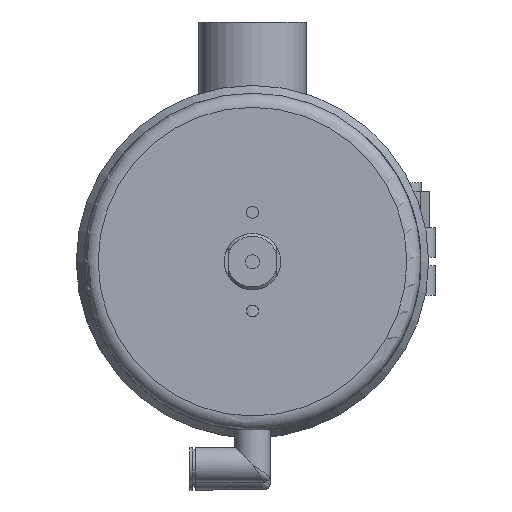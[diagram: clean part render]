
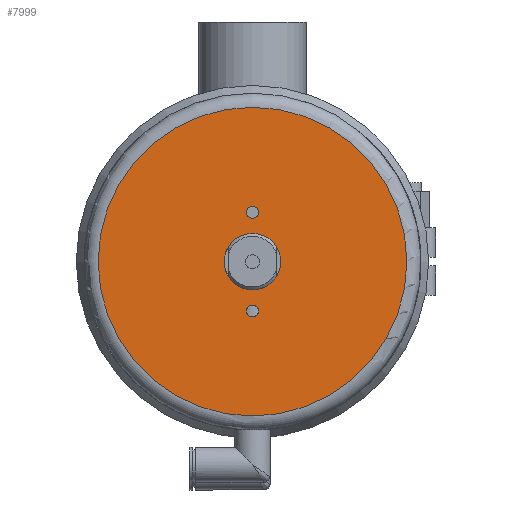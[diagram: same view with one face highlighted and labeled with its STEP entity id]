
A CAD part, front view. The second image highlights one B-rep face of the part: STEP entity #7999.
In plain terms, the highlighted planar face has unit normal (0, -1, 0) as drawn and (0, 1, 0) by its records, which use the part's own axes.
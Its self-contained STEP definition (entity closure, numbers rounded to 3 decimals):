
#518 = DIRECTION ( 'NONE',  ( 0., 1., 0. ) ) ;
#783 = EDGE_LOOP ( 'NONE', ( #12693 ) ) ;
#2027 = AXIS2_PLACEMENT_3D ( 'NONE', #21886, #16858, #3698 ) ;
#2460 = CIRCLE ( 'NONE', #23102, 2.1 ) ;
#3698 = DIRECTION ( 'NONE',  ( 0., 0., -1. ) ) ;
#4054 = FACE_BOUND ( 'NONE', #18522, .T. ) ;
#4702 = AXIS2_PLACEMENT_3D ( 'NONE', #22902, #8426, #9858 ) ;
#5006 = ORIENTED_EDGE ( 'NONE', *, *, #8333, .T. ) ;
#5089 = CIRCLE ( 'NONE', #4702, 10. ) ;
#5433 = VERTEX_POINT ( 'NONE', #21837 ) ;
#7260 = AXIS2_PLACEMENT_3D ( 'NONE', #16535, #518, #7434 ) ;
#7274 = FACE_OUTER_BOUND ( 'NONE', #783, .T. ) ;
#7434 = DIRECTION ( 'NONE',  ( 0., 0., -1. ) ) ;
#7604 = EDGE_LOOP ( 'NONE', ( #5006 ) ) ;
#7804 = CARTESIAN_POINT ( 'NONE',  ( 0., 214., -17.5 ) ) ;
#7999 = ADVANCED_FACE ( 'NONE', ( #4054, #16383, #7274, #14590 ), #16497, .F. ) ;
#8333 = EDGE_CURVE ( 'NONE', #9694, #9694, #5089, .T. ) ;
#8426 = DIRECTION ( 'NONE',  ( 0., -1., 0. ) ) ;
#9694 = VERTEX_POINT ( 'NONE', #16863 ) ;
#9858 = DIRECTION ( 'NONE',  ( 0., 0., -1. ) ) ;
#10207 = DIRECTION ( 'NONE',  ( 0., 0., 1. ) ) ;
#11122 = EDGE_CURVE ( 'NONE', #17227, #17227, #2460, .T. ) ;
#11531 = DIRECTION ( 'NONE',  ( 0., 1., 0. ) ) ;
#11995 = ORIENTED_EDGE ( 'NONE', *, *, #11122, .F. ) ;
#12108 = AXIS2_PLACEMENT_3D ( 'NONE', #7804, #11531, #15100 ) ;
#12693 = ORIENTED_EDGE ( 'NONE', *, *, #13896, .T. ) ;
#13613 = CARTESIAN_POINT ( 'NONE',  ( 0., 214., 19.6 ) ) ;
#13864 = CARTESIAN_POINT ( 'NONE',  ( 0., 214., -54.75 ) ) ;
#13896 = EDGE_CURVE ( 'NONE', #19481, #19481, #17609, .T. ) ;
#14013 = ORIENTED_EDGE ( 'NONE', *, *, #20326, .F. ) ;
#14590 = FACE_BOUND ( 'NONE', #7604, .T. ) ;
#15100 = DIRECTION ( 'NONE',  ( 0., 0., 1. ) ) ;
#16383 = FACE_BOUND ( 'NONE', #19199, .T. ) ;
#16497 = PLANE ( 'NONE',  #2027 ) ;
#16535 = CARTESIAN_POINT ( 'NONE',  ( 0., 214., 0. ) ) ;
#16858 = DIRECTION ( 'NONE',  ( 0., -1., 0. ) ) ;
#16863 = CARTESIAN_POINT ( 'NONE',  ( 0., 214., -10. ) ) ;
#17227 = VERTEX_POINT ( 'NONE', #13613 ) ;
#17271 = DIRECTION ( 'NONE',  ( 0., 1., 0. ) ) ;
#17609 = CIRCLE ( 'NONE', #7260, 54.75 ) ;
#18522 = EDGE_LOOP ( 'NONE', ( #14013 ) ) ;
#18932 = CARTESIAN_POINT ( 'NONE',  ( 0., 214., 17.5 ) ) ;
#19199 = EDGE_LOOP ( 'NONE', ( #11995 ) ) ;
#19481 = VERTEX_POINT ( 'NONE', #13864 ) ;
#20326 = EDGE_CURVE ( 'NONE', #5433, #5433, #22397, .T. ) ;
#21837 = CARTESIAN_POINT ( 'NONE',  ( 0., 214., -15.4 ) ) ;
#21886 = CARTESIAN_POINT ( 'NONE',  ( -59.75, 214., 0. ) ) ;
#22397 = CIRCLE ( 'NONE', #12108, 2.1 ) ;
#22902 = CARTESIAN_POINT ( 'NONE',  ( 0., 214., 0. ) ) ;
#23102 = AXIS2_PLACEMENT_3D ( 'NONE', #18932, #17271, #10207 ) ;
